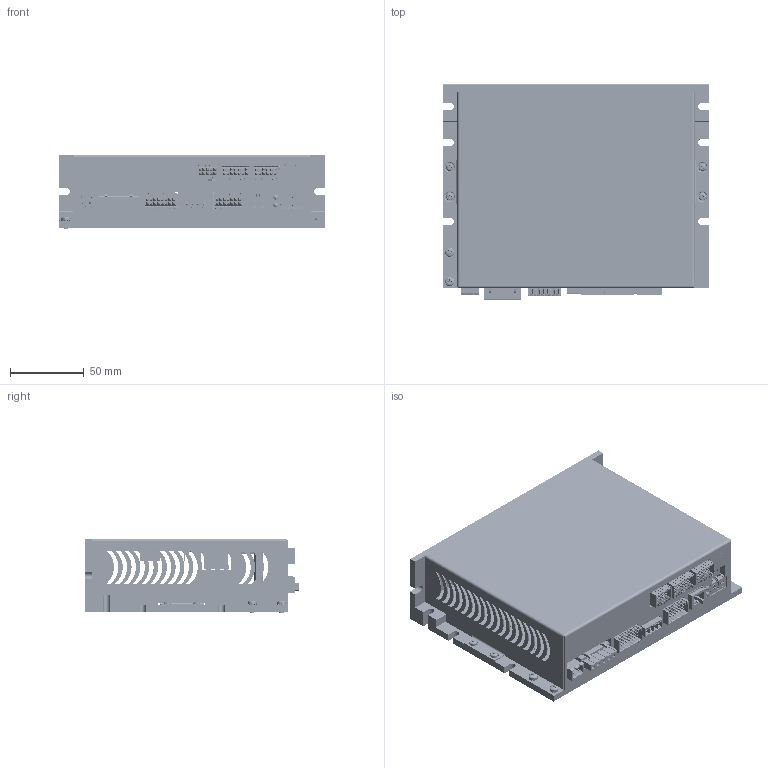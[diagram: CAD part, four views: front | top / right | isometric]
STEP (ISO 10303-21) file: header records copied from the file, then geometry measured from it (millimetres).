
FILE_DESCRIPTION(/* description */ ('Unknown'),/* implementation_level */ '2;1');
FILE_NAME(/* name */ 'AW5A9750E2G1-20',/* time_stamp */ '2021-09-24T17:15:58+02:00',/* author */ ('Unknown'),/* organization */ ('Unknown'),/* preprocessor_version */ 'ST-DEVELOPER v16.7',/* originating_system */ 'Solid Edge',/* authorisation */ 'Unknown');
FILE_SCHEMA (('AUTOMOTIVE_DESIGN {1 0 10303 214 3 1 1}'));
Products named in the file (460): SW5A9030; estruso_sw5a9030_isd04_inserti; ESTRUSO_SW5A9030_ISD04; inserto_m2_5x12mm; ad_01121_sw5a9030_isd04; hexdist_MF_M2e5 x 30mm; dentellata_M3; tcc_M2e5x05; ISD04-00_oa_0; Board; Open CASCADE STEP translator 6.8 2.1.1; CN7; 1782378; mc_1.5-4-g-3.81-p14-thr; CN3; dinkle_0156-1514; CN2A; 1927878_3D; IC_2_5-5-G-5_08-225340_ASM; IC_2_5-5-G-5_08-217880; CN4; dinkle_0156-1516l; GL400; 5151061f; J400; IMD03DIP-00; DIP100; a6e-4104; SW401; RTE0400V04; SW400; CN6; 955012641; Open CASCADE STEP translator 6.8 2.503.1.1; Open CASCADE STEP translator 6.8 2.503.1.2; CN1; CA02MHLT5.08B_1757242; MSTBA_2_5-2-G-5_08-72070_ASM; MSTBA_2_5-2-G-5_08-69580; tcc_M3x06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
Assembly tree (762 placements, depth 11):
  SW5A9030
    estruso_sw5a9030_isd04_inserti
      ESTRUSO_SW5A9030_ISD04
      inserto_m2_5x12mm  x3
    ad_01121_sw5a9030_isd04
    hexdist_MF_M2e5 x 30mm  x2
    dentellata_M3  x2
    tcc_M2e5x05  x12
    ISD04-00_oa_0
      Board
        Open CASCADE STEP translator 6.8 2.1.1
      CN7
        1782378
          mc_1.5-4-g-3.81-p14-thr
      CN3
        dinkle_0156-1514
      CN2A
        1927878_3D
          IC_2_5-5-G-5_08-225340_ASM
            IC_2_5-5-G-5_08-217880
      CN4
        dinkle_0156-1516l
      GL400
        5151061f
      J400
        IMD03DIP-00
          Board
          DIP100
            a6e-4104
      SW401
        RTE0400V04
      SW400
        RTE0400V04
      CN6
        955012641
          Open CASCADE STEP translator 6.8 2.503.1.1
          Open CASCADE STEP translator 6.8 2.503.1.2
      CN1
        CA02MHLT5.08B_1757242
          MSTBA_2_5-2-G-5_08-72070_ASM
            MSTBA_2_5-2-G-5_08-69580
    tcc_M3x06  x2
    Scatola SW5A9030 con ISD04
    ISX04-00
      Board
        Open CASCADE STEP translator 6.8 2.1.1
      IC700
        User_Library-so14-2
      J402
        010897061
          Open CASCADE STEP translator 6.8 2.3.1.1
          Open CASCADE STEP translator 6.8 2.3.1.2
      IC401
        User_Library-TSSOP14-1
      CN13
        dinkle_0156-1510_COLORATO
      Z600
        User_Library-DO-214AA(SMB)
      XT900
        123
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Bounding box: 180.7 x 146.11 x 50.4 mm (x, y, z)
Volume: 283340.2 mm3; surface area: 247505.9 mm2
Topology: 453 solids, 487 shells, 26334 faces, 66935 edges, 40859 vertices
Faces by surface type: plane 16143, cylinder 6683, sphere 1564, bspline 962, torus 835, cone 147
Full cylindrical faces by diameter (mm): 0.037 x8, 0.3 x1, 0.434 x1, 0.457 x2, 0.6 x8, 0.704 x2, 0.762 x48, 0.8 x12, 0.889 x8, 0.9 x20, 1 x27, 1.016 x58, 1.2 x8, 1.25 x4, 1.27 x2, 1.35 x24, 1.351 x12, 1.397 x1, 1.4 x111, 1.5 x6, 1.524 x6, 1.53 x1, 1.55 x1, 1.6 x10, 1.778 x4, 2 x2, 2.013 x9, 2.032 x6, 2.05 x3, 2.459 x2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
Entity records: 469331 total; most frequent: CARTESIAN_POINT 84983, ORIENTED_EDGE 66935, DIRECTION 63690, EDGE_CURVE 33519, LINE 27160, VECTOR 27160, VERTEX_POINT 21911, AXIS2_PLACEMENT_3D 18265
